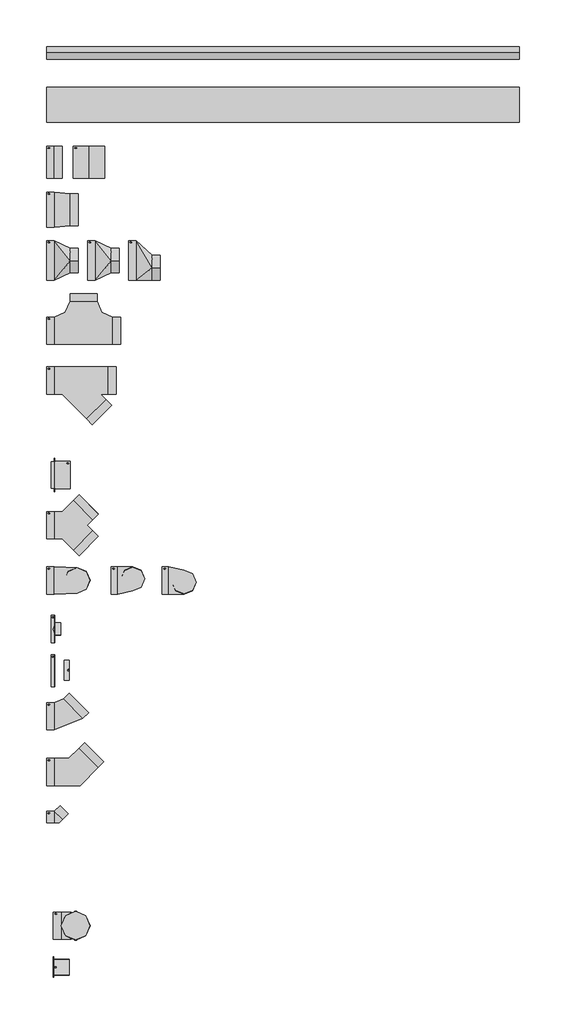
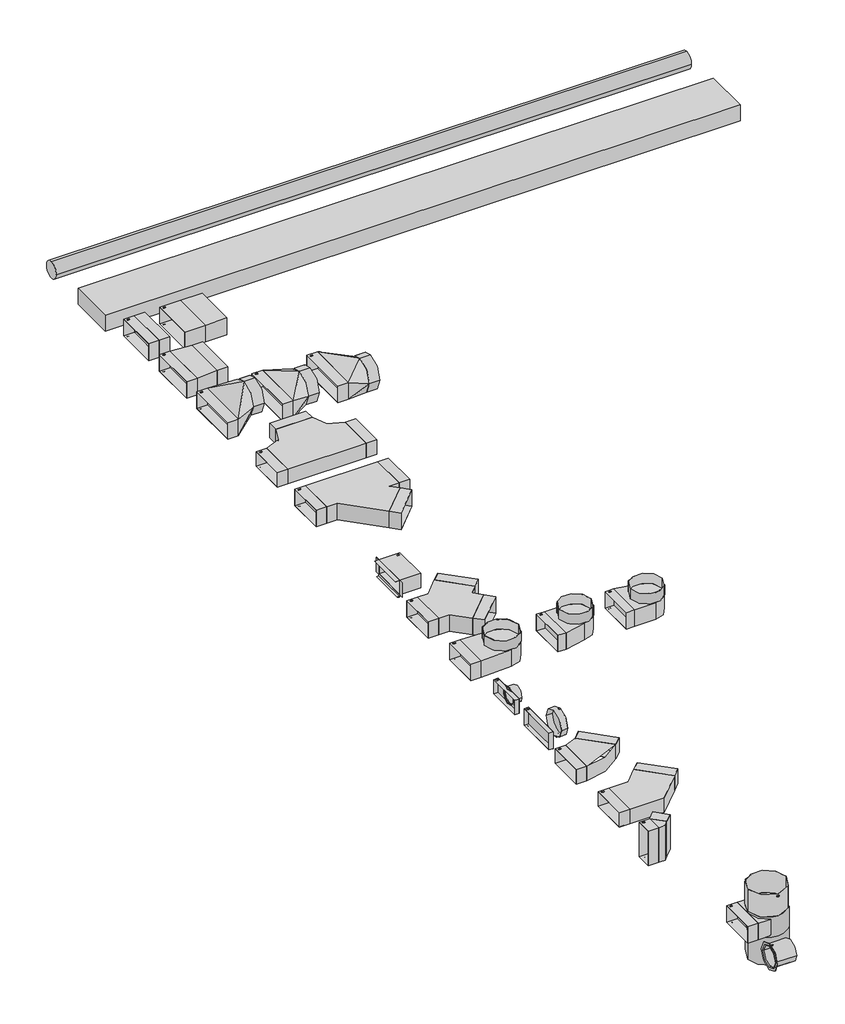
# One storey, incomplete: 21 duct fittings, 2 duct segments.
"""IFC4 building model written with IfcOpenShell, lengths in millimetres."""

from ifc_helpers import new_model, si_unit, point, frame, frame_2d, origin, place, context, project, spatial, polyline, circle_curve, trimmed, segment, composite_curve, outline, extrude, transform, mapped, element, save
from components import duct_fitting_acedd400, duct_fitting_e17ad3fe, duct_fitting_cee54b72, duct_fitting_dd60b140, duct_fitting_c78f7533, duct_fitting_b807a0b0, duct_fitting_2dd9eabd, duct_fitting_184fc7e4, duct_fitting_53590efe, duct_fitting_8a1c439f, duct_fitting_828d90e0, duct_fitting_444cdd6c, duct_fitting_13d70ac2, duct_fitting_78203509, duct_fitting_448a302e, duct_fitting_72918f3c, duct_fitting_ca5e9259, duct_fitting_9172f450, links_3f430847, rechts_61f9c098, verloop_rechthoekig_2b6b2c87

model = new_model("IFC4")

# Units and contexts
model_context = context("Model", 3, world=origin())
ifc_project = project(units=[si_unit("LENGTHUNIT", "METRE", prefix="MILLI")], contexts=[model_context])

# Site, building, storey
site = spatial("IfcSite", under=ifc_project)
building = spatial("IfcBuilding", under=site)
storey = spatial("IfcBuildingStorey", under=building, Name="Velu Instortkanalen", Elevation=0.0)

# Duct fittings
placement = place(None, origin())
duct_fitting_shape = duct_fitting_acedd400(model_context)
element("IfcDuctFitting", 1, ObjectType="NLRS_57_DUF_UN_instortkanaal-rechthoekig-naar-rond-verloop_LT_velu : BZV (brede zijde vlak)", at=placement, inside=storey, context=model_context, shape_type="MappedRepresentation", body=[
    mapped(duct_fitting_shape, transform((-238.9650873, 4153.6231122, 0.0), x_axis=(1.0, 0.0, 0.0), y_axis=(0.0, 1.0, 0.0), z_axis=(0.0, 0.0, 1.0))),
])
duct_fitting_2_shape = duct_fitting_e17ad3fe(model_context)
element("IfcDuctFitting", 2, ObjectType="NLRS_57_DUF_UN_instortkanaal-rechthoekig-naar-rond-verloop_LT_velu : SZV (smalle zijde vlak)", at=placement, inside=storey, context=model_context, shape_type="MappedRepresentation", body=[
    mapped(duct_fitting_2_shape, transform((281.0349127, 4153.6231122, 0.0), x_axis=(1.0, 0.0, 0.0), y_axis=(0.0, 1.0, 0.0), z_axis=(0.0, 0.0, 1.0))),
])
duct_fitting_3_shape = duct_fitting_cee54b72(model_context)
element("IfcDuctFitting", 3, ObjectType="NLRS_57_DUF_UN_instortkanaal-stromend-T-stuk-90_LT_velu : T-stuk 90 stromend", at=placement, inside=storey, context=model_context, shape_type="MappedRepresentation", body=[
    mapped(duct_fitting_3_shape, transform((-103.9650873, 3709.1529567, 0.0), x_axis=(1.0, 0.0, 0.0), y_axis=(0.0, 1.0, 0.0), z_axis=(0.0, 0.0, 1.0))),
])
duct_fitting_4_shape = duct_fitting_dd60b140(model_context)
element("IfcDuctFitting", 4, ObjectType="NLRS_57_DUF_UN_instortkanaal-rechthoekig-naar-rond-verloop_LT_velu : SYM (hart=hart)", at=placement, inside=storey, context=model_context, shape_type="MappedRepresentation", body=[
    mapped(duct_fitting_4_shape, transform((21.0349127, 4153.6231122, 0.0), x_axis=(1.0, 0.0, 0.0), y_axis=(0.0, 1.0, 0.0), z_axis=(0.0, 0.0, 1.0))),
])
duct_fitting_5_shape = duct_fitting_c78f7533(model_context)
element("IfcDuctFitting", 5, ObjectType="NLRS_57_DUF_UN_instortkanaal-stromend-T-stuk-45_LT_velu : T-stuk 45 stromend", at=placement, inside=storey, context=model_context, shape_type="MappedRepresentation", body=[
    mapped(duct_fitting_5_shape, transform((-203.9650873, 3392.1410487, 0.0), x_axis=(1.0, 0.0, 0.0), y_axis=(0.0, 1.0, 0.0), z_axis=(0.0, 0.0, 1.0))),
])
duct_fitting_6_shape = duct_fitting_b807a0b0(model_context)
element("IfcDuctFitting", 6, ObjectType="NLRS_57_DUF_UN_instortkanaal-rechthoekig-zij-aansluitstuk_LT_velu : VIK rechte zijaansluiting", at=placement, inside=storey, context=model_context, shape_type="MappedRepresentation", body=[
    mapped(duct_fitting_6_shape, transform((-288.9650873, 2793.6233343, 0.0), x_axis=(1.0, 0.0, 0.0), y_axis=(0.0, 1.0, 0.0), z_axis=(0.0, 0.0, 1.0))),
])
duct_fitting_7_shape = duct_fitting_2dd9eabd(model_context)
element("IfcDuctFitting", 7, ObjectType="NLRS_57_DUF_UN_instortkanaal-rechthoekig-naar-rond-lepe-hoek_LT_velu : Centrisch", at=placement, inside=storey, context=model_context, shape_type="MappedRepresentation", body=[
    mapped(duct_fitting_7_shape, transform((-288.9650873, 2125.554899, 0.0), x_axis=(1.0, 0.0, 0.0), y_axis=(0.0, 1.0, 0.0), z_axis=(0.0, 0.0, 1.0))),
])
duct_fitting_8_shape = duct_fitting_184fc7e4(model_context)
element("IfcDuctFitting", 8, ObjectType="NLRS_57_DUF_UN_instortkanaal-rechthoekig-einddeksel-met-stuts_LT_velu : Deksel met stuks", at=placement, inside=storey, context=model_context, shape_type="MappedRepresentation", body=[
    mapped(duct_fitting_8_shape, transform((-288.9650873, 1817.5688089, 0.0), x_axis=(1.0, 0.0, 0.0), y_axis=(0.0, 1.0, 0.0), z_axis=(0.0, 0.0, 1.0))),
])
duct_fitting_9_shape = duct_fitting_53590efe(model_context)
element("IfcDuctFitting", 9, ObjectType="NLRS_57_DUF_UN_instortkanaal-manchet-voor-luchtkanaal_LT_velu : Manchet 100", at=placement, inside=storey, context=model_context, shape_type="MappedRepresentation", body=[
    mapped(duct_fitting_9_shape, transform((-288.9650873, 4776.80798, 0.0), x_axis=(1.0, 0.0, 0.0), y_axis=(0.0, 1.0, 0.0), z_axis=(0.0, 0.0, 1.0))),
])
duct_fitting_10_shape = duct_fitting_8a1c439f(model_context)
element("IfcDuctFitting", 10, ObjectType="NLRS_57_DUF_UN_instortkanaal-manchet-voor-luchtkanaal_LT_velu : Manchet 200", at=placement, inside=storey, context=model_context, shape_type="MappedRepresentation", body=[
    mapped(duct_fitting_10_shape, transform((-68.9650873, 4776.80798, 0.0), x_axis=(1.0, 0.0, 0.0), y_axis=(0.0, 1.0, 0.0), z_axis=(0.0, 0.0, 1.0))),
])
duct_fitting_11_shape = duct_fitting_828d90e0(model_context)
element("IfcDuctFitting", 11, ObjectType="NLRS_57_DUF_UN_instortkanaal-rechthoekig-einddeksel_LT_velu : VIK Einddeksel rechthoekig", at=placement, inside=storey, context=model_context, shape_type="MappedRepresentation", body=[
    mapped(duct_fitting_11_shape, transform((-288.9650873, 1553.1602721, 0.0), x_axis=(1.0, 0.0, 0.0), y_axis=(0.0, 1.0, 0.0), z_axis=(0.0, 0.0, 1.0))),
])
duct_fitting_12_shape = duct_fitting_444cdd6c(model_context)
element("IfcDuctFitting", 12, ObjectType="NLRS_57_DUF_UN_instortkanaal-stromende-bocht_LT_velu : Bocht radius stromend", at=placement, inside=storey, context=model_context, shape_type="MappedRepresentation", body=[
    mapped(duct_fitting_12_shape, transform((-288.9650873, 1263.8223831, 0.0), x_axis=(1.0, 0.0, 0.0), y_axis=(0.0, 1.0, 0.0), z_axis=(0.0, 0.0, 1.0))),
])
duct_fitting_13_shape = duct_fitting_13d70ac2(model_context)
element("IfcDuctFitting", 13, ObjectType="NLRS_57_DUF_UN_instortkanaal-haakse-bocht-45_LT_velu : Bocht 45 haaks", at=placement, inside=storey, context=model_context, shape_type="MappedRepresentation", body=[
    mapped(duct_fitting_13_shape, transform((-288.9650873, 911.2160528, 0.0), x_axis=(1.0, 0.0, 0.0), y_axis=(0.0, 1.0, 0.0), z_axis=(0.0, 0.0, 1.0))),
])
duct_fitting_14_shape = duct_fitting_78203509(model_context)
element("IfcDuctFitting", 14, ObjectType="NLRS_57_DUF_UN_instortkanaal-instortbus_LT_velu : VIK IB", at=placement, inside=storey, context=model_context, shape_type="MappedRepresentation", body=[
    mapped(duct_fitting_14_shape, transform((-154.1715017, -62.8838021, 0.0), x_axis=(1.0, 0.0, 0.0), y_axis=(0.0, 1.0, 0.0), z_axis=(0.0, 0.0, 1.0))),
])
duct_fitting_15_shape = duct_fitting_448a302e(model_context)
element("IfcDuctFitting", 15, ObjectType="NLRS_57_DUF_UN_instortkanaal-ronde-aansluitstuts-buismaat_LT_velu : VIK aansluitstuts", at=placement, inside=storey, context=model_context, shape_type="MappedRepresentation", body=[
    mapped(duct_fitting_15_shape, transform((-295.1715017, -326.1093941, 0.0), x_axis=(1.0, 0.0, 0.0), y_axis=(0.0, 1.0, 0.0), z_axis=(0.0, 0.0, 1.0))),
])
duct_fitting_16_shape = duct_fitting_72918f3c(model_context)
element("IfcDuctFitting", 16, ObjectType="NLRS_57_DUF_UN_instortkanaal-staande-haakse-bocht-45_LT_velu : Staande bocht 45", at=placement, inside=storey, context=model_context, shape_type="MappedRepresentation", body=[
    mapped(duct_fitting_16_shape, transform((-288.9650873, 625.9873056, 0.0), x_axis=(1.0, 0.0, 0.0), y_axis=(0.0, 1.0, 0.0), z_axis=(0.0, 0.0, 1.0))),
])
duct_fitting_17_shape = duct_fitting_ca5e9259(model_context)
element("IfcDuctFitting", 17, ObjectType="NLRS_57_DUF_UN_instortkanaal-broekstuk-45_LT_velu : VIK broekstuk", at=placement, inside=storey, context=model_context, shape_type="MappedRepresentation", body=[
    mapped(duct_fitting_17_shape, transform((-202.9650873, 2475.5944725, 0.0), x_axis=(1.0, 0.0, 0.0), y_axis=(0.0, 1.0, 0.0), z_axis=(0.0, 0.0, 1.0))),
])
duct_fitting_18_shape = duct_fitting_9172f450(model_context)
element("IfcDuctFitting", 18, ObjectType="NLRS_57_DUF_UN_instortkanaal-rond-pvc-einddeksel_LT_velu : PVC Deksel rond", at=placement, inside=storey, context=model_context, shape_type="MappedRepresentation", body=[
    mapped(duct_fitting_18_shape, transform((-195.1548647, 1557.4582289, 0.0), x_axis=(1.0, 0.0, 0.0), y_axis=(0.0, 1.0, 0.0), z_axis=(0.0, 0.0, 1.0))),
])
links_shape = links_3f430847(model_context)
element("IfcDuctFitting", 19, ObjectType="NLRS_57_DUF_UN_instortkanaal-rechthoekig-naar-rond-lepe-hoek_LT_velu : Links", at=placement, inside=storey, context=model_context, shape_type="MappedRepresentation", body=[
    mapped(links_shape, transform((111.0349127, 2125.554899, 0.0), x_axis=(1.0, 0.0, 0.0), y_axis=(0.0, 1.0, 0.0), z_axis=(0.0, 0.0, 1.0))),
])
rechts_shape = rechts_61f9c098(model_context)
element("IfcDuctFitting", 20, ObjectType="NLRS_57_DUF_UN_instortkanaal-rechthoekig-naar-rond-lepe-hoek_LT_velu : Rechts", at=placement, inside=storey, context=model_context, shape_type="MappedRepresentation", body=[
    mapped(rechts_shape, transform((436.0349127, 2125.554899, 0.0), x_axis=(1.0, 0.0, 0.0), y_axis=(0.0, 1.0, 0.0), z_axis=(0.0, 0.0, 1.0))),
])
verloop_rechthoekig_shape = verloop_rechthoekig_2b6b2c87(model_context)
element("IfcDuctFitting", 21, ObjectType="NLRS_57_DUF_UN_instortkanaal-rechthoekig-verloop_LT_velu : Verloop Rechthoekig", at=placement, inside=storey, context=model_context, shape_type="MappedRepresentation", body=[
    mapped(verloop_rechthoekig_shape, transform((-238.9650873, 4475.5319933, 0.0), x_axis=(1.0, 0.0, 0.0), y_axis=(0.0, 1.0, 0.0), z_axis=(0.0, 0.0, 1.0))),
])

# Duct segments
element("IfcDuctSegment", 22, ObjectType="VELU rechthoekig instort kanaal", at=placement, inside=storey, context=model_context, shape_type="SweptSolid", body=[
    extrude(outline(polyline([(-338.9650873, 5030.9759015), (-338.9650873, 5250.9759015), (2661.0349127, 5250.9759015), (2661.0349127, 5030.9759015), (-338.9650873, 5030.9759015)])), frame((0.0, 0.0, -110.0), z_axis=(0.0, 0.0, 1.0), x_axis=(1.0, 0.0, 0.0)), (0.0, 0.0, 1.0), 80.0),
])
element("IfcDuctSegment", 23, ObjectType="VELU rond tbv Instortkanaal", at=placement, inside=storey, context=model_context, shape_type="SweptSolid", body=[
    extrude(outline(composite_curve([segment(trimmed(circle_curve(frame_2d((5470.0590568, -70.0)), 40.0), [point((5430.0590568, -70.0))], [point((5470.0590568, -30.0))], False, "CARTESIAN"), True, "CONTINUOUS"), segment(trimmed(circle_curve(frame_2d((5470.0590568, -70.0)), 40.0), [point((5470.0590568, -30.0))], [point((5510.0590568, -70.0))], False, "CARTESIAN"), True, "CONTINUOUS"), segment(trimmed(circle_curve(frame_2d((5470.0590568, -70.0)), 40.0), [point((5510.0590568, -70.0))], [point((5470.0590568, -110.0))], False, "CARTESIAN"), True, "CONTINUOUS"), segment(trimmed(circle_curve(frame_2d((5470.0590568, -70.0)), 40.0), [point((5470.0590568, -110.0))], [point((5430.0590568, -70.0))], False, "CARTESIAN"), True, "CONTINUOUS")], self_intersect=False)), frame((-338.9650873, 0.0, 0.0), z_axis=(1.0, 0.0, 0.0), x_axis=(0.0, 1.0, 0.0)), (0.0, 0.0, 1.0), 3000.0),
])

save(model, "model.ifc")
